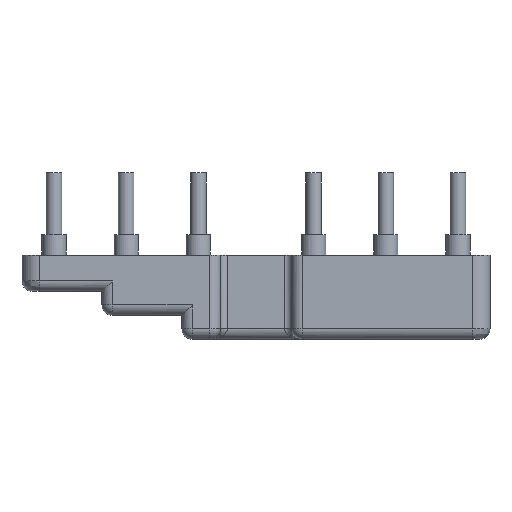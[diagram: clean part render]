
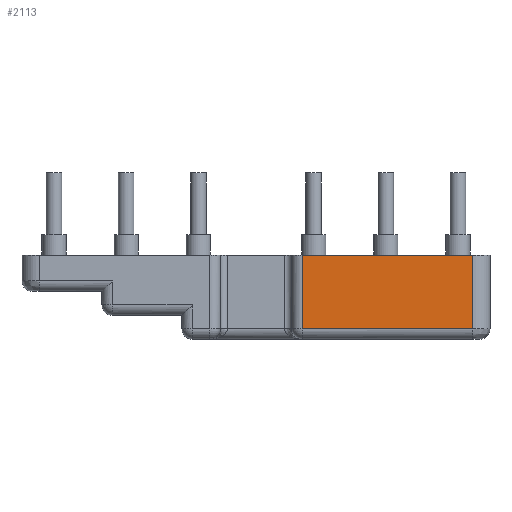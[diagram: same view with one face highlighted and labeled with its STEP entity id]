
A CAD part, front view. The second image highlights one B-rep face of the part: STEP entity #2113.
In plain terms, the highlighted planar face has unit normal (0, -1, 0).
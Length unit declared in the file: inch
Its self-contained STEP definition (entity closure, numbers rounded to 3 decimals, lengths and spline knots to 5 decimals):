
#62=DIRECTION('',(1.,0.,0.));
#63=VECTOR('',#62,1.94094);
#64=CARTESIAN_POINT('',(0.52362,-0.37402,
0.95669));
#65=LINE('',#64,#63);
#451=DIRECTION('',(0.,0.,1.));
#452=VECTOR('',#451,0.83858);
#453=CARTESIAN_POINT('',(0.52362,-0.37402,
0.11811));
#454=LINE('',#453,#452);
#459=DIRECTION('',(0.,0.,-1.));
#460=VECTOR('',#459,0.83858);
#461=CARTESIAN_POINT('',(2.46457,-0.37402,
0.95669));
#462=LINE('',#461,#460);
#497=DIRECTION('',(-1.,0.,0.));
#498=VECTOR('',#497,1.94094);
#499=CARTESIAN_POINT('',(2.46457,-0.37402,
0.11811));
#500=LINE('',#499,#498);
#1185=CARTESIAN_POINT('',(0.52362,-0.37402,
0.95669));
#1186=VERTEX_POINT('',#1185);
#1187=CARTESIAN_POINT('',(2.46457,-0.37402,
0.95669));
#1188=VERTEX_POINT('',#1187);
#1189=CARTESIAN_POINT('',(0.52362,-0.37402,
0.11811));
#1191=VERTEX_POINT('',#1189);
#1328=CARTESIAN_POINT('',(2.46457,-0.37402,
0.11811));
#1330=VERTEX_POINT('',#1328);
#2100=CARTESIAN_POINT('',(2.66142,-0.37402,0.));
#2101=DIRECTION('',(0.,-1.,0.));
#2102=DIRECTION('',(0.,0.,-1.));
#2103=AXIS2_PLACEMENT_3D('',#2100,#2101,#2102);
#2104=PLANE('',#2103);
#2105=ORIENTED_EDGE('',*,*,#2091,.T.);
#2106=ORIENTED_EDGE('',*,*,#1537,.T.);
#2108=ORIENTED_EDGE('',*,*,#2107,.T.);
#2110=ORIENTED_EDGE('',*,*,#2109,.T.);
#2111=EDGE_LOOP('',(#2105,#2106,#2108,#2110));
#2112=FACE_OUTER_BOUND('',#2111,.F.);
#2113=ADVANCED_FACE('',(#2112),#2104,.T.);
#1537=EDGE_CURVE('',#1186,#1188,#65,.T.);
#2091=EDGE_CURVE('',#1191,#1186,#454,.T.);
#2107=EDGE_CURVE('',#1188,#1330,#462,.T.);
#2109=EDGE_CURVE('',#1330,#1191,#500,.T.);
